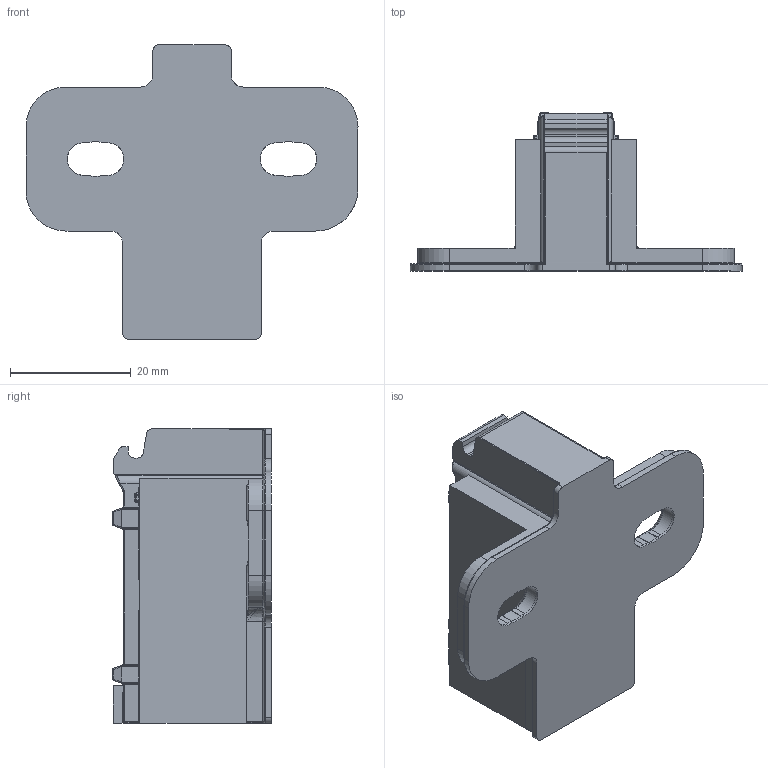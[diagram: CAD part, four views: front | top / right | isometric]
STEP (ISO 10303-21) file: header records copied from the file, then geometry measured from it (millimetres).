
FILE_DESCRIPTION (( 'STEP AP203' ), '1' );
FILE_NAME ('81H180AQA.STEP', '2024-07-27T01:03:44', ( '微软用户' ), ( '微软中国' ), 'SwSTEP 2.0', 'SolidWorks 2021', '' );
FILE_SCHEMA (( 'CONFIG_CONTROL_DESIGN' ));
Length unit declared in the file: millimetre
Products named in the file (1): 81H180AQA
Bounding box: 55.1 x 26.3 x 48.85 mm (x, y, z)
Volume: 23934.5 mm3; surface area: 7165.7 mm2
Topology: 1 solids, 1 shells, 600 faces, 1471 edges, 840 vertices
Faces by surface type: cylinder 244, plane 129, bspline 81, torus 74, sphere 66, cone 6
Entity records: 19212 total; most frequent: CARTESIAN_POINT 6428, ORIENTED_EDGE 2880, DIRECTION 2390, EDGE_CURVE 1440, AXIS2_PLACEMENT_3D 960, VERTEX_POINT 840, EDGE_LOOP 602, FACE_OUTER_BOUND 600
